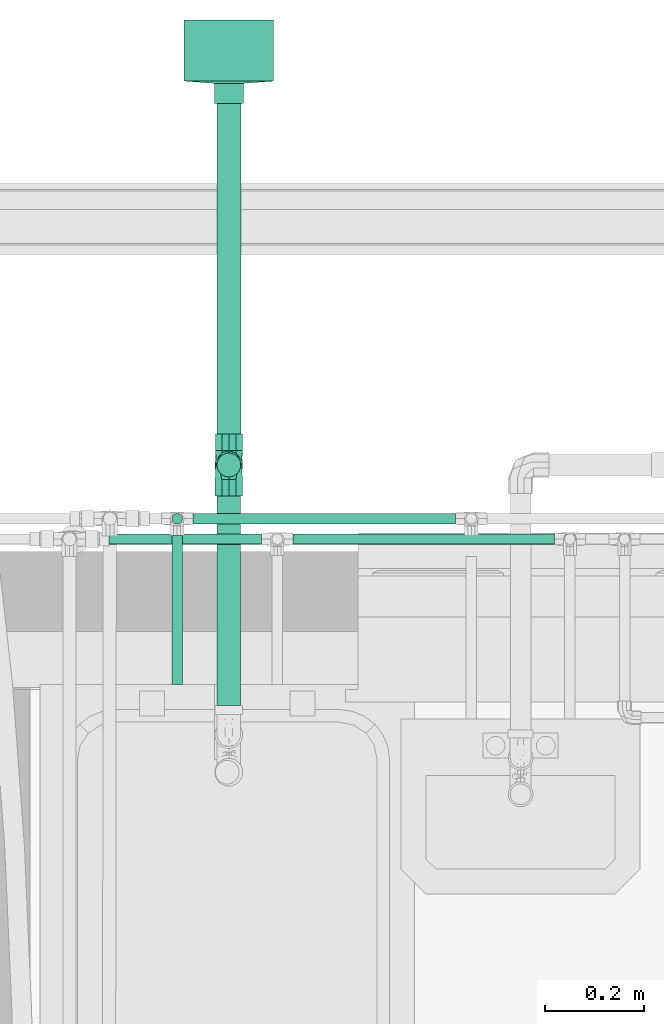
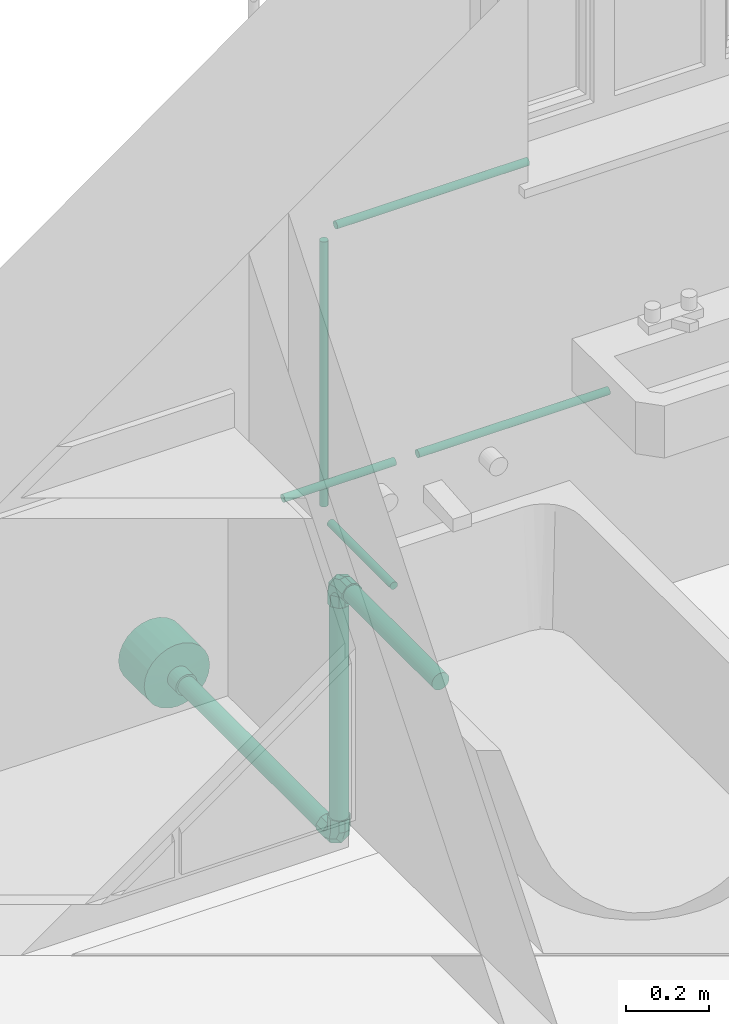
# One storey, part 22 of 41: 8 flow segments, 3 flow fittings.
"""IFC2X3 building model written with IfcOpenShell, lengths in millimetres."""

from ifc_helpers import new_model, entity, si_unit, converted_unit, derived_unit, direction, frame, frame_2d, origin, origin_2d_with_axis, place, context, subcontext, project, spatial, circle, extrude, faceted_brep, source, transform, mapped, type_object, type_shapes, element, save


model = new_model("IFC2X3")

# Units and contexts
model_context = context("Model", 3, precision=0.01, world=origin(), true_north=direction((6.12303176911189e-17, 1.0)))
body_context = subcontext(model_context, "Body", "Model", "MODEL_VIEW")
ifc_project = project(units=[si_unit("LENGTHUNIT", "METRE", prefix="MILLI"), si_unit("AREAUNIT", "SQUARE_METRE"), si_unit("VOLUMEUNIT", "CUBIC_METRE"), converted_unit("PLANEANGLEUNIT", "DEGREE", entity("IfcRatioMeasure", 0.0174532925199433), si_unit("PLANEANGLEUNIT", "RADIAN"), dimensions=[0, 0, 0, 0, 0, 0, 0]), si_unit("MASSUNIT", "GRAM", prefix="KILO"), derived_unit("MASSDENSITYUNIT", [(si_unit("MASSUNIT", "GRAM", prefix="KILO"), 1), (si_unit("LENGTHUNIT", "METRE"), -3)]), si_unit("TIMEUNIT", "SECOND"), si_unit("FREQUENCYUNIT", "HERTZ"), si_unit("THERMODYNAMICTEMPERATUREUNIT", "DEGREE_CELSIUS"), derived_unit("THERMALTRANSMITTANCEUNIT", [(si_unit("MASSUNIT", "GRAM", prefix="KILO"), 1), (si_unit("THERMODYNAMICTEMPERATUREUNIT", "KELVIN"), -1), (si_unit("TIMEUNIT", "SECOND"), -3)]), derived_unit("VOLUMETRICFLOWRATEUNIT", [(si_unit("LENGTHUNIT", "METRE"), 3), (si_unit("TIMEUNIT", "SECOND"), -1)]), si_unit("ELECTRICCURRENTUNIT", "AMPERE"), si_unit("ELECTRICVOLTAGEUNIT", "VOLT"), si_unit("POWERUNIT", "WATT"), si_unit("FORCEUNIT", "NEWTON", prefix="KILO"), si_unit("ILLUMINANCEUNIT", "LUX"), si_unit("LUMINOUSFLUXUNIT", "LUMEN"), si_unit("LUMINOUSINTENSITYUNIT", "CANDELA"), derived_unit("USERDEFINED", [(si_unit("MASSUNIT", "GRAM", prefix="KILO"), -1), (si_unit("LENGTHUNIT", "METRE"), -2), (si_unit("TIMEUNIT", "SECOND"), 3), (si_unit("LUMINOUSFLUXUNIT", "LUMEN"), 1)]), derived_unit("LINEARVELOCITYUNIT", [(si_unit("LENGTHUNIT", "METRE"), 1), (si_unit("TIMEUNIT", "SECOND"), -1)]), si_unit("PRESSUREUNIT", "PASCAL"), derived_unit("USERDEFINED", [(si_unit("LENGTHUNIT", "METRE"), -2), (si_unit("MASSUNIT", "GRAM", prefix="KILO"), 1), (si_unit("TIMEUNIT", "SECOND"), -2)])], contexts=[model_context])

# Site, building, storey
site_placement = place(None, origin())
site = spatial("IfcSite", under=ifc_project, at=site_placement, Name="Surface", CompositionType="ELEMENT")
building_placement = place(site_placement, origin())
building = spatial("IfcBuilding", under=site, at=building_placement, CompositionType="ELEMENT")
storey_placement = place(building_placement, frame((0.0, 0.0, 300.0)))
storey = spatial("IfcBuildingStorey", under=building, at=storey_placement, Name="F.F.L", CompositionType="ELEMENT", Elevation=300.0)

# Flow segments
pipe_segment_type = type_object("IfcPipeSegmentType", Name="Pipe Types:PVC80", PredefinedType="NOTDEFINED")
flow_segment_1_placement = place(storey_placement, origin())
element("IfcFlowSegment", 1, at=flow_segment_1_placement, inside=storey, type_object=pipe_segment_type, Name="Pipe Types:PVC80", ObjectType="Pipe Types:PVC80", context=body_context, shape_type="SweptSolid", body=[
    extrude(circle(Radius=24.13, at=origin_2d_with_axis()), frame((-4073.73879885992, 10512.9648891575, -33.7751883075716), z_axis=(0.0, 1.0, 0.0), x_axis=(1.0, 0.0, 0.0)), (0.0, 0.0, 1.0), 440.0),
])
flow_segment_2_placement = place(storey_placement, origin())
element("IfcFlowSegment", 2, at=flow_segment_2_placement, inside=storey, type_object=pipe_segment_type, Name="Pipe Types:PVC80", ObjectType="Pipe Types:PVC80", context=body_context, shape_type="SweptSolid", body=[
    extrude(circle(Radius=10.668, at=frame_2d((-2.16573425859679e-12, 0.0), x_axis=(1.0, 0.0))), frame((-3943.52517007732, 10850.8400891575, 383.200000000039), z_axis=(1.0, 0.0, 0.0), x_axis=(0.0, 1.0, 0.0)), (0.0, 0.0, 1.0), 529.900000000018),
])
flow_segment_3_placement = place(storey_placement, origin())
element("IfcFlowSegment", 3, at=flow_segment_3_placement, inside=storey, type_object=pipe_segment_type, Name="Pipe Types:PVC80", ObjectType="Pipe Types:PVC80", context=body_context, shape_type="SweptSolid", body=[
    extrude(circle(Radius=24.13, at=origin_2d_with_axis()), frame((-4073.59298694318, 11001.1416737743, -722.238257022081)), (0.0, 0.0, 1.0), 625.744118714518),
])
flow_segment_4_placement = place(storey_placement, origin())
element("IfcFlowSegment", 4, at=flow_segment_4_placement, inside=storey, type_object=pipe_segment_type, Name="Pipe Types:PVC80", ObjectType="Pipe Types:PVC80", context=body_context, shape_type="SweptSolid", body=[
    extrude(circle(Radius=24.13, at=origin_2d_with_axis()), frame((-4073.59298694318, 11063.8606237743, -784.957207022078), z_axis=(0.0, 1.0, 0.0), x_axis=(1.0, 0.0, 0.0)), (0.0, 0.0, 1.0), 670.8650931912),
])
flow_segment_5_placement = place(storey_placement, origin())
element("IfcFlowSegment", 5, at=flow_segment_5_placement, inside=storey, type_object=pipe_segment_type, Name="Pipe Types:PVC80", ObjectType="Pipe Types:PVC80", context=body_context, shape_type="SweptSolid", body=[
    extrude(circle(Radius=10.668, at=frame_2d((0.0, -6.76791955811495e-14), x_axis=(1.0, 0.0))), frame((-4178.47517007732, 10555.8400891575, 257.535533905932), z_axis=(0.0, 1.0, 0.0), x_axis=(1.0, 0.0, 0.0)), (0.0, 0.0, 1.0), 302.679098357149),
])
flow_segment_6_placement = place(storey_placement, origin())
element("IfcFlowSegment", 6, at=flow_segment_6_placement, inside=storey, type_object=pipe_segment_type, Name="Pipe Types:PVC80", ObjectType="Pipe Types:PVC80", context=body_context, shape_type="SweptSolid", body=[
    extrude(circle(Radius=10.668, at=origin_2d_with_axis()), frame((-4178.47517007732, 10892.2567375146, 291.273083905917)), (0.0, 0.0, 1.0), 776.976916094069),
])
flow_segment_7_placement = place(storey_placement, origin())
element("IfcFlowSegment", 7, at=flow_segment_7_placement, inside=storey, type_object=pipe_segment_type, Name="Pipe Types:PVC80", ObjectType="Pipe Types:PVC80", context=body_context, shape_type="SweptSolid", body=[
    extrude(circle(Radius=10.668, at=origin_2d_with_axis()), frame((-4146.72517007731, 10892.2567375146, 1100.0), z_axis=(1.0, 0.0, 0.0), x_axis=(0.0, -1.0, 0.0)), (0.0, 0.0, 1.0), 533.100000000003),
])
flow_segment_8_placement = place(storey_placement, origin())
element("IfcFlowSegment", 8, at=flow_segment_8_placement, inside=storey, type_object=pipe_segment_type, Name="Pipe Types:PVC80", ObjectType="Pipe Types:PVC80", context=body_context, shape_type="SweptSolid", body=[
    extrude(circle(Radius=10.668, at=frame_2d((2.16573425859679e-12, 0.0), x_axis=(1.0, 0.0))), frame((-4316.5857700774, 10850.8400891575, 383.200000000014), z_axis=(1.0, 0.0, 0.0), x_axis=(0.0, 1.0, 0.0)), (0.0, 0.0, 1.0), 309.56060000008),
])

# Flow fittings
pipe_fitting_type_1 = type_object("IfcPipeFittingType", Name="Standard", PredefinedType="NOTDEFINED")
shared_shape_1 = source(origin(), body_context, "Body", "Brep", [
    faceted_brep([(-62.7189499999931, 7.39575421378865, -27.601330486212), (-62.7189499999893, -7.39575421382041, -27.601330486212), (-62.7189499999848, -24.7466759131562, -14.2875000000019), (-62.7189499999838, -28.5750000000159, 0.0), (-62.7189499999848, -24.7466759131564, 14.2874999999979), (-62.7189499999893, -7.39575421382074, 27.6013304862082), (-62.7189499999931, 7.3957542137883, 27.6013304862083), (-62.7189499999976, 24.7466759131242, 14.2874999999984), (-62.7189499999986, 28.5749999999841, 0.0), (-62.7189499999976, 24.7466759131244, -14.2875000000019), (-29.3687499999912, -28.5750000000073, 0.0), (-29.3687499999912, -24.7466759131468, 14.2874999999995), (-29.3687499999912, -7.39575421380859, 27.6013304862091), (-29.3687499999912, 7.39575421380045, 27.6013304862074), (7.39575421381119, 62.7189499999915, 27.6013304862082), (-7.39575421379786, 62.7189499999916, 27.6013304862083), (-7.39575421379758, 29.3687499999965, 27.6013304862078), (7.39575421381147, 29.3687499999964, 27.6013304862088), (-29.3687499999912, 24.7466759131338, 14.2874999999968), (-29.3687499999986, 28.5749999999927, 0.0), (-29.3687499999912, 24.746675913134, -14.2875000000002), (-29.3687499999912, 7.39575421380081, -27.601330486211), (-29.3687499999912, -7.39575421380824, -27.601330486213), (-7.3957542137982, 62.7189499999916, -27.601330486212), (7.39575421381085, 62.7189499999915, -27.601330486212), (7.39575421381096, 29.3687499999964, -27.6013304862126), (-7.39575421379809, 29.3687499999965, -27.6013304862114), (-29.3687499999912, -24.7466759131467, -14.2875000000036), (-1.06812941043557, 1.06812639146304, 26.5144290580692), (-10.2513697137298, -18.4571125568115, 18.0695174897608), (-3.64221065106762, -17.9187184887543, 0.0), (11.6036685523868, -11.6036685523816, 0.0), (18.4571116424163, 10.2513668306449, 18.0695172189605), (-28.8074839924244, 28.8074839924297, 0.0), (-24.7466759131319, 29.3687499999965, 14.2874999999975), (-16.9756319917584, 16.9756316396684, 26.0056169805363), (17.9187181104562, 3.64220973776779, 0.0), (28.5750000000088, 29.3687499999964, 0.0), (24.7466759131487, 29.3687499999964, 14.2874999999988), (-28.5749999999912, 29.3687499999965, 0.0), (-10.2513695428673, -18.4571125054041, -18.0695174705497), (-16.9756316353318, 16.9756313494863, -26.005617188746), (-24.7466759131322, 29.3687499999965, -14.2875000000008), (-1.06812831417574, 1.06812596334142, -26.5144286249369), (18.4571113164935, 10.2513669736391, -18.0695176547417), (24.7466759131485, 29.3687499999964, -14.287500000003), (24.7466759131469, 62.7189499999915, 14.2874999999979), (28.5750000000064, 62.7189499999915, 0.0), (24.7466759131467, 62.7189499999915, -14.2875000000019), (-24.746675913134, 62.7189499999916, -14.2875000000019), (-28.5749999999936, 62.7189499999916, 0.0), (-24.7466759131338, 62.7189499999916, 14.2874999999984)], [[[0, 1, 2, 3, 4, 5, 6, 7, 8, 9]], [[3, 10, 11, 4]], [[4, 11, 12, 5]], [[12, 13, 6, 5]], [[14, 15, 16, 17]], [[6, 13, 18, 7]], [[7, 18, 19, 8]], [[8, 19, 20, 9]], [[9, 20, 21, 0]], [[21, 22, 1, 0]], [[23, 24, 25, 26]], [[1, 22, 27, 2]], [[2, 27, 10, 3]], [[12, 28, 13]], [[29, 11, 30]], [[31, 29, 30]], [[17, 28, 32]], [[29, 12, 11]], [[33, 18, 34]], [[31, 32, 28]], [[33, 19, 18]], [[18, 13, 35]], [[11, 10, 30]], [[28, 29, 31]], [[36, 37, 38]], [[28, 35, 13]], [[28, 12, 29]], [[32, 36, 38]], [[18, 35, 34]], [[33, 34, 39]], [[32, 38, 17]], [[34, 35, 16]], [[28, 16, 35]], [[32, 31, 36]], [[16, 28, 17]], [[40, 31, 30]], [[40, 27, 22]], [[41, 20, 42]], [[41, 43, 21]], [[10, 27, 30]], [[43, 25, 44]], [[27, 40, 30]], [[43, 22, 21]], [[31, 40, 43]], [[43, 41, 26]], [[20, 19, 33]], [[33, 39, 42]], [[31, 44, 36]], [[22, 43, 40]], [[42, 26, 41]], [[45, 36, 44]], [[45, 37, 36]], [[31, 43, 44]], [[20, 41, 21]], [[44, 25, 45]], [[26, 25, 43]], [[42, 20, 33]], [[46, 47, 48, 24, 23, 49, 50, 51, 15, 14]], [[37, 47, 46, 38]], [[38, 46, 14, 17]], [[16, 15, 51, 34]], [[34, 51, 50, 39]], [[39, 50, 49, 42]], [[42, 49, 23, 26]], [[25, 24, 48, 45]], [[45, 48, 47, 37]]]),
])
type_shapes(pipe_fitting_type_1, [shared_shape_1])
for number, where, z_axis, x_axis, name in (
    (9, (-4073.73879885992, 11001.1416737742, -33.7751883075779), (1.0, 0.0, 0.0), (0.0, 0.0, 1.0), "M_Elbow - PVC - Sch 40:Standard"),
    (10, (-4073.59298694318, 11001.1416737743, -784.957207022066), (1.0, 0.0, 0.0), (0.0, 0.0, -1.0), "M_Elbow - PVC - Sch 40:Standard"),
):
    element("IfcFlowFitting", number, at=place(storey_placement, frame(where, z_axis=z_axis, x_axis=x_axis)), inside=storey, type_object=pipe_fitting_type_1, Name=name, ObjectType="Standard", context=body_context, shape_type="MappedRepresentation", body=[
        mapped(shared_shape_1, transform((0.0, 0.0, 0.0), scale=1.0)),
    ])
pipe_fitting_type_2 = type_object("IfcPipeFittingType", Name="Standard", PredefinedType="NOTDEFINED")
shared_shape_2 = source(origin(), body_context, "Body", "Brep", [
    faceted_brep([(128.535937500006, 29.3949218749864, 0.0), (128.535937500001, 26.5879566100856, 8.63895078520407), (128.535937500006, 23.7809913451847, 17.277901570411), (128.535937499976, 16.4322608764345, 22.6170667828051), (128.535937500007, 9.08353040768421, 27.9562319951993), (128.53593749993, 0.0, 27.9562319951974), (128.535937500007, -9.08353040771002, 27.9562319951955), (128.53593749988, -16.4322608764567, 22.6170667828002), (128.535937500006, -23.7809913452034, 17.277901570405), (128.535937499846, -26.587956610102, 8.63895078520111), (128.535937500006, -29.3949218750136, 0.0), (128.535937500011, -26.5879566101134, -8.63895078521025), (128.535937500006, -23.7809913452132, -17.2779015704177), (128.535937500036, -16.4322608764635, -22.6170667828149), (128.535937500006, -9.08353040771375, -27.9562319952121), (128.535937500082, 0.0, -27.9562319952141), (128.535937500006, 9.08353040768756, -27.956231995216), (128.535937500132, 16.4322608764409, -22.61706678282), (128.535937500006, 23.7809913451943, -17.277901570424), (128.535937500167, 26.5879566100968, -8.63895078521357), (123.921875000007, 15.8011023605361, 89.6125045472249), (123.921875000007, 45.4974609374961, 78.8039139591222), (123.921875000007, 69.7061542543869, 58.4904083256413), (123.921875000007, 85.5072566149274, 31.1220962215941), (123.921875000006, 90.9949218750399, 0.0), (123.921875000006, 85.5072566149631, -31.1220962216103), (123.921875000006, 69.7061542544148, -58.490408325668), (123.921875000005, 45.4974609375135, -78.803913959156), (123.921875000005, 15.8011023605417, -89.6125045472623), (123.921875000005, -15.8011023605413, -89.6125045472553), (123.921875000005, -45.4974609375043, -78.8039139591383), (123.921875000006, -69.706154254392, -58.4904083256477), (123.921875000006, -85.5072566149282, -31.1220962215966), (123.921875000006, -90.9949218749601, 0.0), (123.921875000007, -85.5072566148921, 31.1220962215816), (123.921875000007, -69.7061542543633, 58.4904083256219), (123.921875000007, -45.4974609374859, 78.803913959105), (123.921875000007, -15.8011023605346, 89.6125045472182)], [[[0, 1, 2, 3, 4, 5, 6, 7, 8, 9, 10, 11, 12, 13, 14, 15, 16, 17, 18, 19]], [[20, 21, 22, 23, 24, 25, 26, 27, 28, 29, 30, 31, 32, 33, 34, 35, 36, 37]], [[24, 19, 25]], [[26, 17, 27]], [[28, 16, 15, 14, 29]], [[28, 27, 16]], [[17, 26, 18]], [[26, 25, 18]], [[30, 14, 13]], [[17, 16, 27]], [[14, 30, 29]], [[12, 31, 13]], [[31, 30, 13]], [[10, 33, 11]], [[19, 18, 25]], [[19, 24, 0]], [[32, 12, 11]], [[32, 31, 12]], [[11, 33, 32]], [[33, 9, 34]], [[35, 7, 36]], [[37, 6, 5, 4, 20]], [[37, 36, 6]], [[7, 35, 8]], [[35, 34, 8]], [[21, 4, 3]], [[7, 6, 36]], [[4, 21, 20]], [[2, 22, 3]], [[22, 21, 3]], [[0, 24, 1]], [[9, 8, 34]], [[9, 33, 10]], [[23, 2, 1]], [[23, 22, 2]], [[1, 24, 23]]]),
    faceted_brep([(168.857812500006, 0.0, -29.3949218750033), (168.857812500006, 7.60796561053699, -28.3933142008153), (168.857812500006, 14.6974609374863, -25.4567490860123), (168.857812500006, 20.7853485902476, -20.7853485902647), (168.857812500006, 25.4567490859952, -14.6974609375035), (168.857812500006, 28.3933142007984, -7.60796561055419), (168.857812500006, 29.3949218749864, 0.0), (168.857812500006, 28.3933142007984, 7.60796561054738), (168.857812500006, 25.4567490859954, 14.6974609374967), (168.857812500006, 20.7853485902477, 20.785348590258), (168.857812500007, 14.6974609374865, 25.4567490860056), (168.857812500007, 7.60796561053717, 28.3933142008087), (168.857812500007, 0.0, 29.3949218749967), (168.857812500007, -7.60796561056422, 28.3933142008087), (168.857812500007, -14.6974609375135, 25.4567490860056), (168.857812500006, -20.7853485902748, 20.785348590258), (168.857812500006, -25.4567490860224, 14.6974609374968), (168.857812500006, -28.3933142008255, 7.60796561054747), (168.857812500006, -29.3949218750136, 0.0), (168.857812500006, -28.3933142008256, -7.60796561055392), (168.857812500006, -25.4567490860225, -14.6974609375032), (168.857812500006, -20.7853485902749, -20.7853485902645), (168.857812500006, -14.6974609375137, -25.4567490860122), (168.857812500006, -7.60796561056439, -28.3933142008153), (128.535937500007, 0.0, 29.3949218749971), (128.535937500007, 7.60796561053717, 28.3933142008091), (128.535937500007, 14.6974609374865, 25.456749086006), (128.535937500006, 20.7853485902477, 20.7853485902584), (128.535937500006, 25.4567490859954, 14.6974609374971), (128.535937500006, 28.3933142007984, 7.60796561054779), (128.535937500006, 29.3949218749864, 0.0), (128.535937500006, 28.3933142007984, -7.60796561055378), (128.535937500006, 25.4567490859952, -14.6974609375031), (128.535937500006, 20.7853485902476, -20.7853485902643), (128.535937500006, 14.6974609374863, -25.4567490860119), (128.535937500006, 7.60796561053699, -28.3933142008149), (128.535937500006, 0.0, -29.3949218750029), (128.535937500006, -7.60796561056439, -28.3933142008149), (128.535937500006, -14.6974609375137, -25.4567490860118), (128.535937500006, -20.7853485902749, -20.7853485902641), (128.535937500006, -25.4567490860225, -14.6974609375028), (128.535937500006, -28.3933142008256, -7.6079656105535), (128.535937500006, -29.3949218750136, 0.0), (128.535937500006, -28.3933142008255, 7.60796561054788), (128.535937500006, -25.4567490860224, 14.6974609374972), (128.535937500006, -20.7853485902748, 20.7853485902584), (128.535937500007, -14.6974609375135, 25.456749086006), (128.535937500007, -7.60796561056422, 28.3933142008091)], [[[0, 1, 2, 3, 4, 5, 6, 7, 8, 9, 10, 11, 12, 13, 14, 15, 16, 17, 18, 19, 20, 21, 22, 23]], [[24, 25, 26, 27, 28, 29, 30, 31, 32, 33, 34, 35, 36, 37, 38, 39, 40, 41, 42, 43, 44, 45, 46, 47]], [[19, 18, 42, 41]], [[20, 19, 41, 40]], [[22, 38, 37, 23]], [[36, 0, 23, 37]], [[39, 21, 20, 40]], [[39, 38, 22, 21]], [[1, 35, 34, 2]], [[33, 3, 2, 34]], [[4, 32, 31, 5]], [[33, 32, 4, 3]], [[5, 31, 30, 6]], [[35, 1, 0, 36]], [[29, 7, 6, 30]], [[28, 8, 7, 29]], [[28, 27, 9, 8]], [[27, 26, 10, 9]], [[25, 11, 10, 26]], [[12, 11, 25, 24]], [[13, 47, 46, 14]], [[45, 15, 14, 46]], [[16, 44, 43, 17]], [[45, 44, 16, 15]], [[17, 43, 42, 18]], [[47, 13, 12, 24]]]),
    faceted_brep([(123.921875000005, 45.4974609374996, -78.8039139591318), (123.921875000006, 64.3431263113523, -64.3431263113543), (123.921875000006, 78.8039139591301, -45.4974609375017), (123.921875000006, 87.8943451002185, -23.5512187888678), (123.921875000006, 90.994921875, 0.0), (123.921875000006, 87.8943451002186, 23.5512187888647), (123.921875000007, 78.8039139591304, 45.4974609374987), (123.921875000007, 64.3431263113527, 64.3431263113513), (123.921875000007, 45.4974609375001, 78.803913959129), (123.921875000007, 23.5512187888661, 87.8943451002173), (123.921875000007, 0.0, 90.9949218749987), (123.921875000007, -23.5512187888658, 87.8943451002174), (123.921875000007, -45.4974609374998, 78.8039139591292), (123.921875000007, -64.3431263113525, 64.3431263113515), (123.921875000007, -78.8039139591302, 45.4974609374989), (123.921875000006, -87.8943451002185, 23.551218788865), (123.921875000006, -90.994921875, 0.0), (123.921875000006, -87.8943451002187, -23.5512187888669), (123.921875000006, -78.8039139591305, -45.497460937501), (123.921875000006, -64.3431263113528, -64.3431263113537), (123.921875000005, -45.4974609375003, -78.8039139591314), (123.921875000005, -23.5512187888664, -87.8943451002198), (123.921875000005, 0.0, -90.9949218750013), (123.921875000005, 23.5512187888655, -87.89434510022), (0.0, 0.0, 90.994921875), (0.0, 23.5512187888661, 87.8943451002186), (0.0, 45.4974609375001, 78.8039139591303), (0.0, 64.3431263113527, 64.3431263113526), (0.0, 78.8039139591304, 45.4974609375), (0.0, 87.8943451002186, 23.551218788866), (0.0, 90.994921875, 0.0), (0.0, 87.8943451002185, -23.5512187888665), (0.0, 78.8039139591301, -45.4974609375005), (0.0, 64.3431263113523, -64.343126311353), (0.0, 45.4974609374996, -78.8039139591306), (0.0, 23.5512187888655, -87.8943451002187), (0.0, 0.0, -90.994921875), (0.0, -23.5512187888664, -87.8943451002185), (0.0, -45.4974609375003, -78.8039139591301), (0.0, -64.3431263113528, -64.3431263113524), (0.0, -78.8039139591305, -45.4974609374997), (0.0, -87.8943451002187, -23.5512187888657), (0.0, -90.994921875, 0.0), (0.0, -87.8943451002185, 23.5512187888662), (0.0, -78.8039139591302, 45.4974609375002), (0.0, -64.3431263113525, 64.3431263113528), (0.0, -45.4974609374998, 78.8039139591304), (0.0, -23.5512187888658, 87.8943451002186)], [[[0, 1, 2, 3, 4, 5, 6, 7, 8, 9, 10, 11, 12, 13, 14, 15, 16, 17, 18, 19, 20, 21, 22, 23]], [[24, 25, 26, 27, 28, 29, 30, 31, 32, 33, 34, 35, 36, 37, 38, 39, 40, 41, 42, 43, 44, 45, 46, 47]], [[17, 41, 40, 18]], [[39, 19, 18, 40]], [[20, 38, 37, 21]], [[39, 38, 20, 19]], [[21, 37, 36, 22]], [[41, 17, 16, 42]], [[23, 35, 34, 0]], [[33, 1, 0, 34]], [[2, 32, 31, 3]], [[33, 32, 2, 1]], [[3, 31, 30, 4]], [[35, 23, 22, 36]], [[5, 4, 30, 29]], [[6, 5, 29, 28]], [[8, 26, 25, 9]], [[9, 25, 24, 10]], [[27, 7, 6, 28]], [[27, 26, 8, 7]], [[11, 47, 46, 12]], [[45, 13, 12, 46]], [[14, 44, 43, 15]], [[45, 44, 14, 13]], [[15, 43, 42, 16]], [[47, 11, 10, 24]]]),
])
type_shapes(pipe_fitting_type_2, [shared_shape_2])
flow_fitting_placement = place(storey_placement, frame((-4073.59298694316, 11903.5835294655, -784.957207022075), z_axis=(-0.0199960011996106, 0.0, 0.999800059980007), x_axis=(0.0, -1.0, 0.0)))
element("IfcFlowFitting", 11, at=flow_fitting_placement, inside=storey, type_object=pipe_fitting_type_2, Name="M_Coupling Reducing - PVC - Sch 40:Standard", ObjectType="Standard", context=body_context, shape_type="MappedRepresentation", body=[
    mapped(shared_shape_2, transform((0.0, 0.0, 0.0), scale=1.0)),
])

save(model, "model.ifc")
